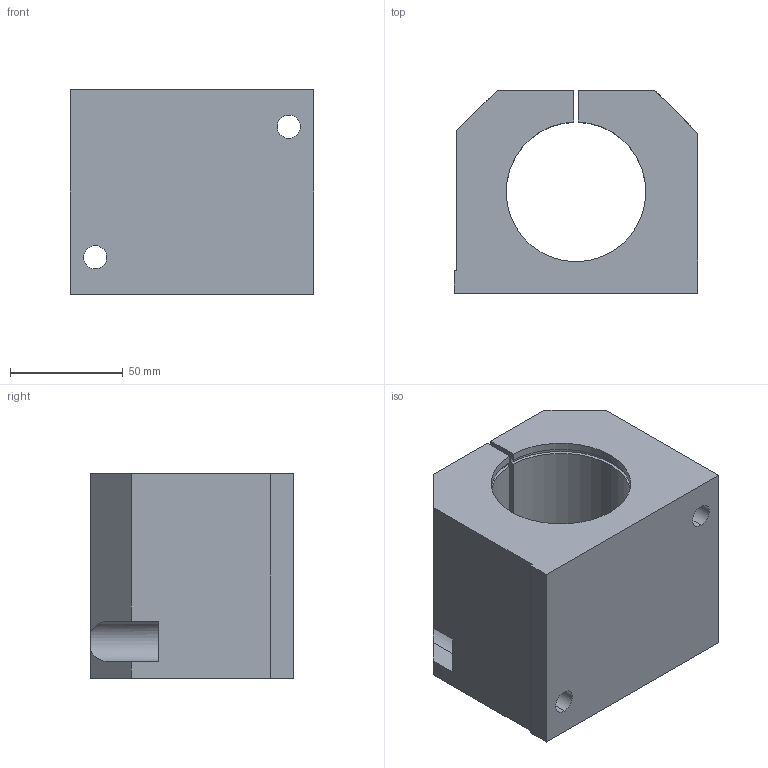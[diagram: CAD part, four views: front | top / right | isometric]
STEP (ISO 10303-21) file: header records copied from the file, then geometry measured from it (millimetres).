
FILE_DESCRIPTION (( 'STEP AP214' ), '1' );
FILE_NAME ('KGE36-40.step', '2020-03-04T13:20:24', ( '' ), ( '' ), 'SwSTEP 2.0', 'SolidWorks 2019', '' );
FILE_SCHEMA (( 'AUTOMOTIVE_DESIGN' ));
Length unit declared in the file: millimetre
Products named in the file (1): KGE36-40
Bounding box: 108 x 90 x 91 mm (x, y, z)
Volume: 537396.5 mm3; surface area: 75307.7 mm2
Topology: 1 solids, 1 shells, 61 faces, 168 edges, 109 vertices
Faces by surface type: cylinder 31, plane 26, cone 4
Entity records: 2130 total; most frequent: CARTESIAN_POINT 413, DIRECTION 340, ORIENTED_EDGE 332, EDGE_CURVE 166, AXIS2_PLACEMENT_3D 120, VERTEX_POINT 109, LINE 100, VECTOR 100
